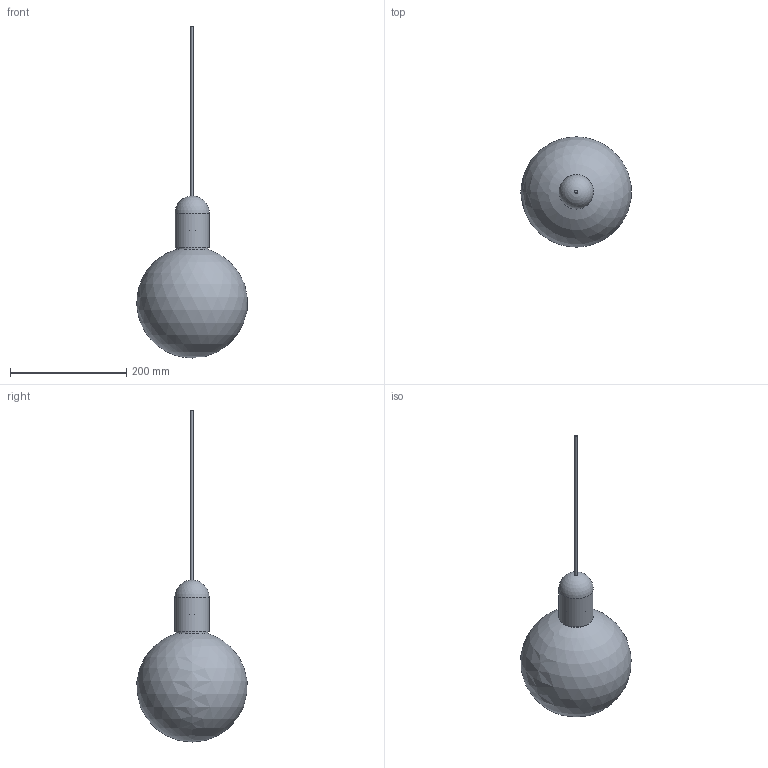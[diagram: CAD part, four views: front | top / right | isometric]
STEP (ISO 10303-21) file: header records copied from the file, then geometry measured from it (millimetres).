
FILE_DESCRIPTION(/* description */ ('','CAx-IF Rec.Pracs.---Representation and Presentation of Product Manufacturing Information (PMI)---4.0---2014-10-13'),/* implementation_level */ '2;1');
FILE_NAME(/* name */ 'Niche - Solitaire Petite - Placebo Pendant.step',/* time_stamp */ '2025-01-09T10:48:02-05:00',/* author */ (''),/* organization */ (''),/* preprocessor_version */ 'ST-DEVELOPER v20',/* originating_system */ 'Autodesk Translation Framework v13.20.0.188',/* authorisation */ '');
FILE_SCHEMA (('AP242_MANAGED_MODEL_BASED_3D_ENGINEERING_MIM_LF { 1 0 10303 442 1 1 4 }'));
Length unit declared in the file: inch
Products named in the file (4): Globe - Modular; Solitaire Pettie Modular; Modular - Placebo - Bayonet Connector; Modular - Placedo - Cord Set
Assembly tree (3 placements, depth 2):
  Globe - Modular
    Solitaire Pettie Modular
    Modular - Placebo - Bayonet Connector
    Modular - Placedo - Cord Set
Bounding box: 189.36 x 189.65 x 570.23 mm (x, y, z)
Volume: 284770.5 mm3; surface area: 274728.7 mm2
Topology: 5 solids, 5 shells, 98 faces, 265 edges, 176 vertices
Faces by surface type: plane 65, cylinder 25, sphere 4, torus 4
Full cylindrical faces by diameter (mm): 4.572 x1, 5.715 x1, 37.592 x1, 42.926 x1, 46.482 x1, 50.038 x1, 53.848 x1, 56.032 x1, 59.08 x1
Entity records: 3331 total; most frequent: CARTESIAN_POINT 668, DIRECTION 543, ORIENTED_EDGE 526, EDGE_CURVE 263, AXIS2_PLACEMENT_3D 187, VERTEX_POINT 176, LINE 169, VECTOR 169
